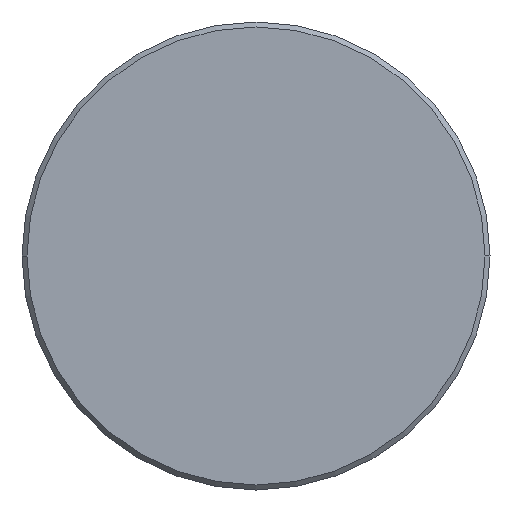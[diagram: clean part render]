
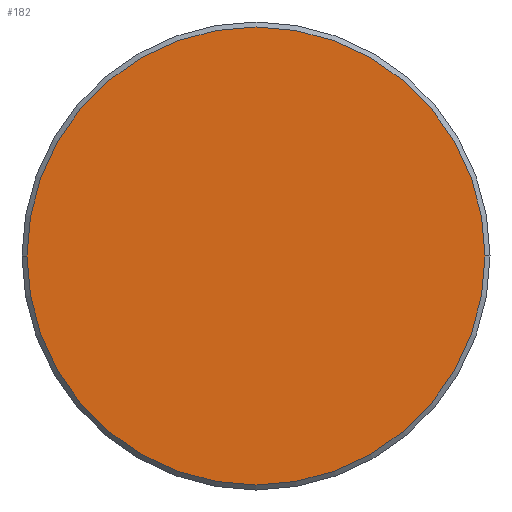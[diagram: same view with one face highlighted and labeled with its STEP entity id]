
A CAD part, left-side view. The second image highlights one B-rep face of the part: STEP entity #182.
In plain terms, the highlighted planar face has unit normal (-1, 0, 0).
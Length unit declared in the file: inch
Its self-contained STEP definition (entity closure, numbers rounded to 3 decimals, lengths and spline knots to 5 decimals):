
#21 = DIRECTION ( 'NONE',  ( -1., 0., 0. ) ) ;
#25 = CARTESIAN_POINT ( 'NONE',  ( 0., 0.1835, 0. ) ) ;
#33 = ORIENTED_EDGE ( 'NONE', *, *, #113, .T. ) ;
#58 = AXIS2_PLACEMENT_3D ( 'NONE', #129, #217, #300 ) ;
#95 = VERTEX_POINT ( 'NONE', #25 ) ;
#113 = EDGE_CURVE ( 'NONE', #95, #367, #378, .T. ) ;
#129 = CARTESIAN_POINT ( 'NONE',  ( 0., 0., 0. ) ) ;
#136 = AXIS2_PLACEMENT_3D ( 'NONE', #242, #352, #237 ) ;
#167 = PLANE ( 'NONE',  #348 ) ;
#170 = EDGE_LOOP ( 'NONE', ( #33, #224 ) ) ;
#182 = ADVANCED_FACE ( 'NONE', ( #310 ), #167, .T. ) ;
#196 = EDGE_CURVE ( 'NONE', #367, #95, #332, .T. ) ;
#217 = DIRECTION ( 'NONE',  ( -1., 0., 0. ) ) ;
#224 = ORIENTED_EDGE ( 'NONE', *, *, #196, .T. ) ;
#225 = CARTESIAN_POINT ( 'NONE',  ( 0., 0., 0. ) ) ;
#237 = DIRECTION ( 'NONE',  ( 0., -1., 0. ) ) ;
#242 = CARTESIAN_POINT ( 'NONE',  ( 0., 0., 0. ) ) ;
#284 = DIRECTION ( 'NONE',  ( 0., -1., 0. ) ) ;
#299 = CARTESIAN_POINT ( 'NONE',  ( 0., -0.1835, 0. ) ) ;
#300 = DIRECTION ( 'NONE',  ( 0., -1., 0. ) ) ;
#310 = FACE_OUTER_BOUND ( 'NONE', #170, .T. ) ;
#332 = CIRCLE ( 'NONE', #136, 0.1835 ) ;
#348 = AXIS2_PLACEMENT_3D ( 'NONE', #225, #21, #284 ) ;
#352 = DIRECTION ( 'NONE',  ( -1., 0., 0. ) ) ;
#367 = VERTEX_POINT ( 'NONE', #299 ) ;
#378 = CIRCLE ( 'NONE', #58, 0.1835 ) ;
